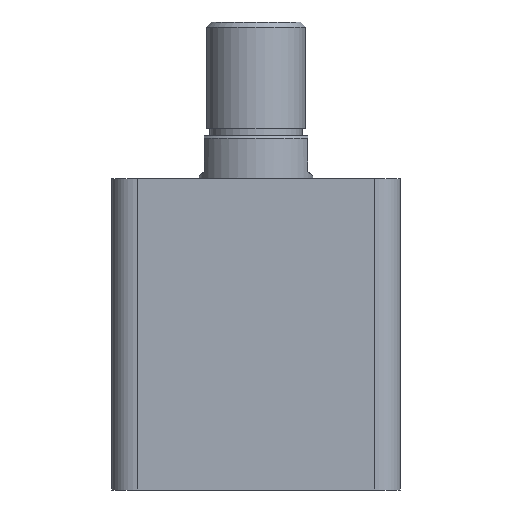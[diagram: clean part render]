
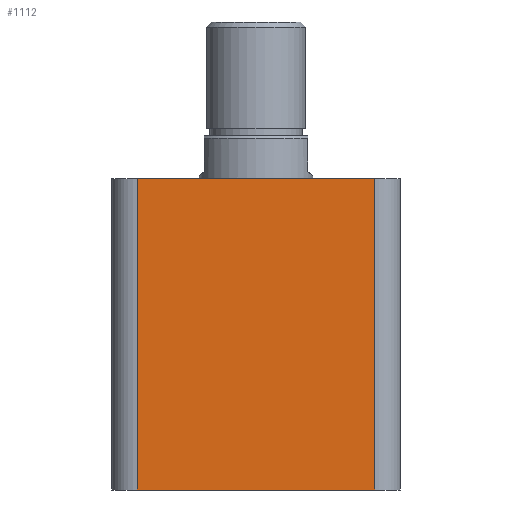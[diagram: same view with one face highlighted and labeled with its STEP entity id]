
A CAD part, front view. The second image highlights one B-rep face of the part: STEP entity #1112.
In plain terms, the highlighted planar face has unit normal (0, -1, 0).
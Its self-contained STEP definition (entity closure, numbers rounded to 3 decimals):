
#46 = CARTESIAN_POINT ( 'NONE',  ( -57., -57., 123. ) ) ;
#58 = PLANE ( 'NONE',  #2085 ) ;
#71 = DIRECTION ( 'NONE',  ( 0., 0., 1. ) ) ;
#72 = DIRECTION ( 'NONE',  ( 0., 1., 0. ) ) ;
#115 = ORIENTED_EDGE ( 'NONE', *, *, #2310, .T. ) ;
#116 = ORIENTED_EDGE ( 'NONE', *, *, #2311, .T. ) ;
#117 = ORIENTED_EDGE ( 'NONE', *, *, #2312, .F. ) ;
#118 = ORIENTED_EDGE ( 'NONE', *, *, #2313, .T. ) ;
#305 = EDGE_LOOP ( 'NONE', ( #115, #116, #117, #118 ) ) ;
#450 = FACE_OUTER_BOUND ( 'NONE', #305, .T. ) ;
#712 = LINE ( 'NONE', #2602, #723 ) ;
#718 = LINE ( 'NONE', #2612, #721 ) ;
#721 = VECTOR ( 'NONE', #2613, 1000. ) ;
#722 = LINE ( 'NONE', #2615, #725 ) ;
#723 = VECTOR ( 'NONE', #2614, 1000. ) ;
#724 = LINE ( 'NONE', #2617, #727 ) ;
#725 = VECTOR ( 'NONE', #2616, 1000. ) ;
#727 = VECTOR ( 'NONE', #2618, 1000. ) ;
#1112 = ADVANCED_FACE ( 'NONE', ( #450 ), #58, .F. ) ;
#1541 = CARTESIAN_POINT ( 'NONE',  ( -47., -57., 0. ) ) ;
#1585 = CARTESIAN_POINT ( 'NONE',  ( 47., -57., 0. ) ) ;
#1587 = CARTESIAN_POINT ( 'NONE',  ( -47., -57., 123. ) ) ;
#1588 = CARTESIAN_POINT ( 'NONE',  ( 47., -57., 123. ) ) ;
#1761 = VERTEX_POINT ( 'NONE', #1541 ) ;
#1807 = VERTEX_POINT ( 'NONE', #1585 ) ;
#1809 = VERTEX_POINT ( 'NONE', #1587 ) ;
#1810 = VERTEX_POINT ( 'NONE', #1588 ) ;
#2085 = AXIS2_PLACEMENT_3D ( 'NONE', #46, #72, #71 ) ;
#2310 = EDGE_CURVE ( 'NONE', #1761, #1807, #718, .T. ) ;
#2311 = EDGE_CURVE ( 'NONE', #1807, #1810, #712, .T. ) ;
#2312 = EDGE_CURVE ( 'NONE', #1809, #1810, #722, .T. ) ;
#2313 = EDGE_CURVE ( 'NONE', #1809, #1761, #724, .T. ) ;
#2602 = CARTESIAN_POINT ( 'NONE',  ( 47., -57., 123. ) ) ;
#2612 = CARTESIAN_POINT ( 'NONE',  ( -57., -57., 0. ) ) ;
#2613 = DIRECTION ( 'NONE',  ( 1., 0., 0. ) ) ;
#2614 = DIRECTION ( 'NONE',  ( 0., 0., 1. ) ) ;
#2615 = CARTESIAN_POINT ( 'NONE',  ( -57., -57., 123. ) ) ;
#2616 = DIRECTION ( 'NONE',  ( 1., 0., 0. ) ) ;
#2617 = CARTESIAN_POINT ( 'NONE',  ( -47., -57., 123. ) ) ;
#2618 = DIRECTION ( 'NONE',  ( 0., 0., -1. ) ) ;
